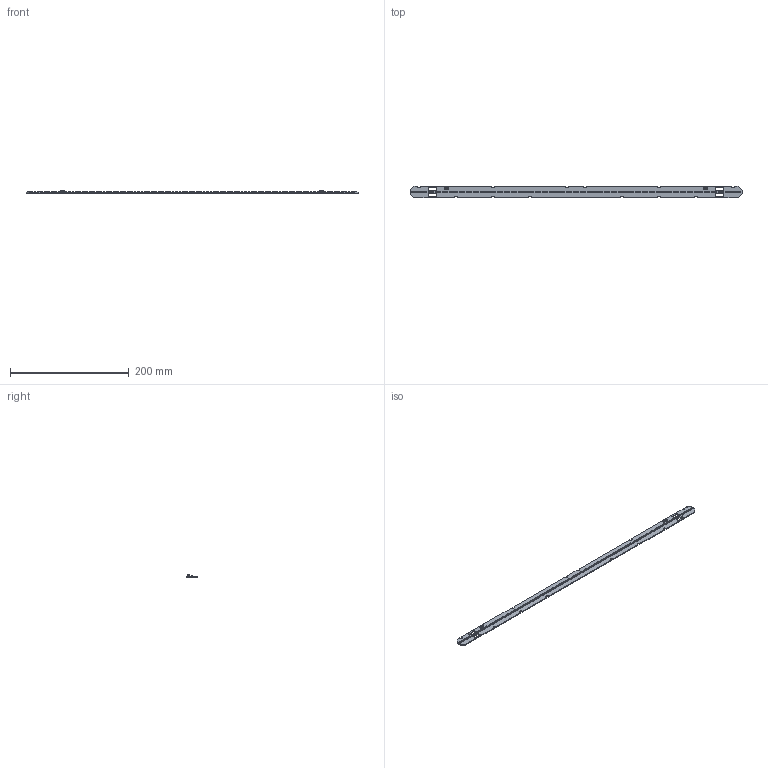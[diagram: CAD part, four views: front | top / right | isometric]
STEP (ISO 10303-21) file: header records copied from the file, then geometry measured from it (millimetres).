
FILE_DESCRIPTION(/* description */ (''),/* implementation_level */ '2;1');
FILE_NAME(/* name */ 'C:\Data\Vault\LE-TPD\4422 960 69150_SB F LED Strip 2ft HF HLD FC HV\4422-960-69150.stp',/* time_stamp */ '2022-08-09T13:52:44+02:00',/* author */ ('670272111'),/* organization */ (''),/* preprocessor_version */ 'ST-DEVELOPER v16.5',/* originating_system */ 'Autodesk Inventor 2017',/* authorisation */ '');
FILE_SCHEMA (('AUTOMOTIVE_DESIGN { 1 0 10303 214 3 1 1 }'));
Products named in the file (1): 4422-960-69150
Bounding box: 559.5 x 20 x 4.3 mm (x, y, z)
Volume: 17792 mm3; surface area: 25499.5 mm2
Topology: 1 solids, 193 shells, 7634 faces, 21490 edges, 14322 vertices
Faces by surface type: plane 6300, cylinder 1334
Entity records: 251539 total; most frequent: CARTESIAN_POINT 43447, ORIENTED_EDGE 42980, DIRECTION 39466, EDGE_CURVE 21490, LINE 18784, VECTOR 18784, VERTEX_POINT 14322, AXIS2_PLACEMENT_3D 10341
